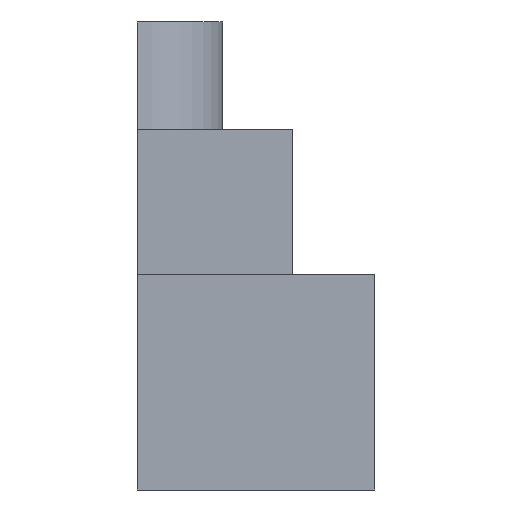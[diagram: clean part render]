
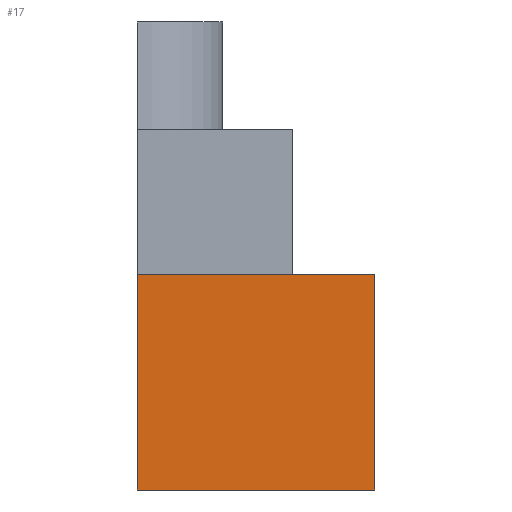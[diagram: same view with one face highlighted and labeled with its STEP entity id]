
A CAD part, left-side view. The second image highlights one B-rep face of the part: STEP entity #17.
In plain terms, the highlighted planar face has unit normal (-1, 0, 0).
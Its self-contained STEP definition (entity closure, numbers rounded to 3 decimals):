
#17 = ADVANCED_FACE('',(#18),#32,.F.);
#18 = FACE_BOUND('',#19,.F.);
#19 = EDGE_LOOP('',(#20,#55,#83,#111));
#20 = ORIENTED_EDGE('',*,*,#21,.F.);
#21 = EDGE_CURVE('',#22,#24,#26,.T.);
#22 = VERTEX_POINT('',#23);
#23 = CARTESIAN_POINT('',(-10.75,-20.32,-1.2));
#24 = VERTEX_POINT('',#25);
#25 = CARTESIAN_POINT('',(-10.75,-16.57,-1.2));
#26 = SURFACE_CURVE('',#27,(#31,#43),.PCURVE_S1.);
#27 = LINE('',#28,#29);
#28 = CARTESIAN_POINT('',(-10.75,-20.32,-1.2));
#29 = VECTOR('',#30,1.);
#30 = DIRECTION('',(0.,1.,0.));
#31 = PCURVE('',#32,#37);
#32 = PLANE('',#33);
#33 = AXIS2_PLACEMENT_3D('',#34,#35,#36);
#34 = CARTESIAN_POINT('',(-10.75,-20.32,-4.6));
#35 = DIRECTION('',(1.,0.,0.));
#36 = DIRECTION('',(0.,0.,1.));
#37 = DEFINITIONAL_REPRESENTATION('',(#38),#42);
#38 = LINE('',#39,#40);
#39 = CARTESIAN_POINT('',(3.4,0.));
#40 = VECTOR('',#41,1.);
#41 = DIRECTION('',(0.,-1.));
#42 = ( GEOMETRIC_REPRESENTATION_CONTEXT(2) 
PARAMETRIC_REPRESENTATION_CONTEXT() REPRESENTATION_CONTEXT('2D SPACE',''
  ) );
#43 = PCURVE('',#44,#49);
#44 = PLANE('',#45);
#45 = AXIS2_PLACEMENT_3D('',#46,#47,#48);
#46 = CARTESIAN_POINT('',(-10.75,-20.32,-1.2));
#47 = DIRECTION('',(0.,0.,1.));
#48 = DIRECTION('',(1.,0.,0.));
#49 = DEFINITIONAL_REPRESENTATION('',(#50),#54);
#50 = LINE('',#51,#52);
#51 = CARTESIAN_POINT('',(0.,0.));
#52 = VECTOR('',#53,1.);
#53 = DIRECTION('',(0.,1.));
#54 = ( GEOMETRIC_REPRESENTATION_CONTEXT(2) 
PARAMETRIC_REPRESENTATION_CONTEXT() REPRESENTATION_CONTEXT('2D SPACE',''
  ) );
#55 = ORIENTED_EDGE('',*,*,#56,.F.);
#56 = EDGE_CURVE('',#57,#22,#59,.T.);
#57 = VERTEX_POINT('',#58);
#58 = CARTESIAN_POINT('',(-10.75,-20.32,-4.6));
#59 = SURFACE_CURVE('',#60,(#64,#71),.PCURVE_S1.);
#60 = LINE('',#61,#62);
#61 = CARTESIAN_POINT('',(-10.75,-20.32,-4.6));
#62 = VECTOR('',#63,1.);
#63 = DIRECTION('',(0.,0.,1.));
#64 = PCURVE('',#32,#65);
#65 = DEFINITIONAL_REPRESENTATION('',(#66),#70);
#66 = LINE('',#67,#68);
#67 = CARTESIAN_POINT('',(0.,0.));
#68 = VECTOR('',#69,1.);
#69 = DIRECTION('',(1.,0.));
#70 = ( GEOMETRIC_REPRESENTATION_CONTEXT(2) 
PARAMETRIC_REPRESENTATION_CONTEXT() REPRESENTATION_CONTEXT('2D SPACE',''
  ) );
#71 = PCURVE('',#72,#77);
#72 = PLANE('',#73);
#73 = AXIS2_PLACEMENT_3D('',#74,#75,#76);
#74 = CARTESIAN_POINT('',(-10.75,-20.32,-4.6));
#75 = DIRECTION('',(0.,1.,0.));
#76 = DIRECTION('',(0.,0.,1.));
#77 = DEFINITIONAL_REPRESENTATION('',(#78),#82);
#78 = LINE('',#79,#80);
#79 = CARTESIAN_POINT('',(0.,0.));
#80 = VECTOR('',#81,1.);
#81 = DIRECTION('',(1.,0.));
#82 = ( GEOMETRIC_REPRESENTATION_CONTEXT(2) 
PARAMETRIC_REPRESENTATION_CONTEXT() REPRESENTATION_CONTEXT('2D SPACE',''
  ) );
#83 = ORIENTED_EDGE('',*,*,#84,.T.);
#84 = EDGE_CURVE('',#57,#85,#87,.T.);
#85 = VERTEX_POINT('',#86);
#86 = CARTESIAN_POINT('',(-10.75,-16.57,-4.6));
#87 = SURFACE_CURVE('',#88,(#92,#99),.PCURVE_S1.);
#88 = LINE('',#89,#90);
#89 = CARTESIAN_POINT('',(-10.75,-20.32,-4.6));
#90 = VECTOR('',#91,1.);
#91 = DIRECTION('',(0.,1.,0.));
#92 = PCURVE('',#32,#93);
#93 = DEFINITIONAL_REPRESENTATION('',(#94),#98);
#94 = LINE('',#95,#96);
#95 = CARTESIAN_POINT('',(0.,0.));
#96 = VECTOR('',#97,1.);
#97 = DIRECTION('',(0.,-1.));
#98 = ( GEOMETRIC_REPRESENTATION_CONTEXT(2) 
PARAMETRIC_REPRESENTATION_CONTEXT() REPRESENTATION_CONTEXT('2D SPACE',''
  ) );
#99 = PCURVE('',#100,#105);
#100 = PLANE('',#101);
#101 = AXIS2_PLACEMENT_3D('',#102,#103,#104);
#102 = CARTESIAN_POINT('',(-10.75,-20.32,-4.6));
#103 = DIRECTION('',(0.,0.,1.));
#104 = DIRECTION('',(1.,0.,0.));
#105 = DEFINITIONAL_REPRESENTATION('',(#106),#110);
#106 = LINE('',#107,#108);
#107 = CARTESIAN_POINT('',(0.,0.));
#108 = VECTOR('',#109,1.);
#109 = DIRECTION('',(0.,1.));
#110 = ( GEOMETRIC_REPRESENTATION_CONTEXT(2) 
PARAMETRIC_REPRESENTATION_CONTEXT() REPRESENTATION_CONTEXT('2D SPACE',''
  ) );
#111 = ORIENTED_EDGE('',*,*,#112,.T.);
#112 = EDGE_CURVE('',#85,#24,#113,.T.);
#113 = SURFACE_CURVE('',#114,(#118,#124),.PCURVE_S1.);
#114 = LINE('',#115,#116);
#115 = CARTESIAN_POINT('',(-10.75,-16.57,-4.8));
#116 = VECTOR('',#117,1.);
#117 = DIRECTION('',(0.,0.,1.));
#118 = PCURVE('',#32,#119);
#119 = DEFINITIONAL_REPRESENTATION('',(#120),#123);
#120 = B_SPLINE_CURVE_WITH_KNOTS('',1,(#121,#122),.UNSPECIFIED.,.F.,.F.,
  (2,2),(0.2,3.6),.PIECEWISE_BEZIER_KNOTS.);
#121 = CARTESIAN_POINT('',(0.,-3.75));
#122 = CARTESIAN_POINT('',(3.4,-3.75));
#123 = ( GEOMETRIC_REPRESENTATION_CONTEXT(2) 
PARAMETRIC_REPRESENTATION_CONTEXT() REPRESENTATION_CONTEXT('2D SPACE',''
  ) );
#124 = PCURVE('',#125,#130);
#125 = PLANE('',#126);
#126 = AXIS2_PLACEMENT_3D('',#127,#128,#129);
#127 = CARTESIAN_POINT('',(-26.75,-16.57,-5.));
#128 = DIRECTION('',(0.,1.,0.));
#129 = DIRECTION('',(0.,0.,1.));
#130 = DEFINITIONAL_REPRESENTATION('',(#131),#134);
#131 = B_SPLINE_CURVE_WITH_KNOTS('',1,(#132,#133),.UNSPECIFIED.,.F.,.F.,
  (2,2),(0.2,3.6),.PIECEWISE_BEZIER_KNOTS.);
#132 = CARTESIAN_POINT('',(0.4,16.));
#133 = CARTESIAN_POINT('',(3.8,16.));
#134 = ( GEOMETRIC_REPRESENTATION_CONTEXT(2) 
PARAMETRIC_REPRESENTATION_CONTEXT() REPRESENTATION_CONTEXT('2D SPACE',''
  ) );
